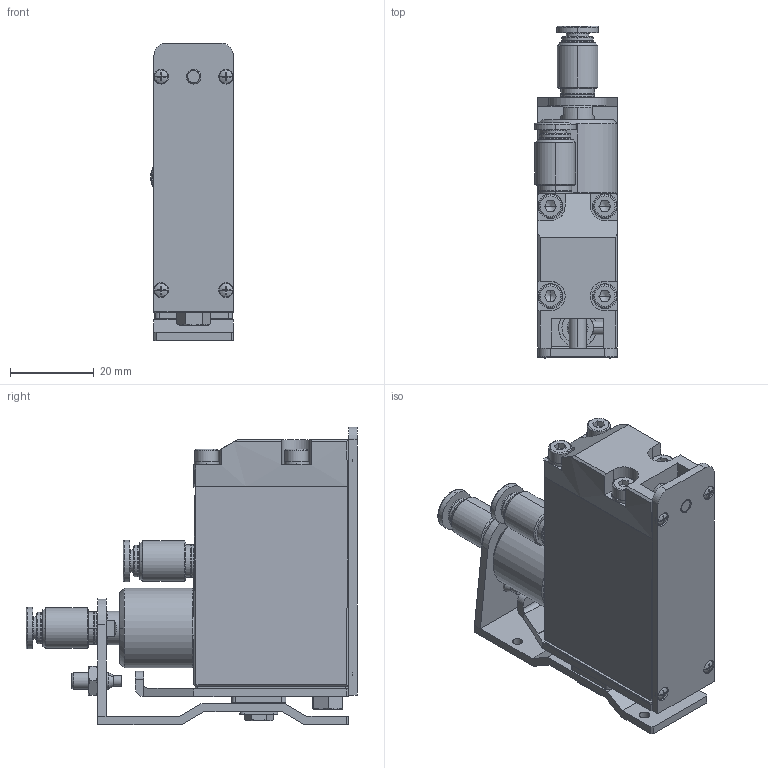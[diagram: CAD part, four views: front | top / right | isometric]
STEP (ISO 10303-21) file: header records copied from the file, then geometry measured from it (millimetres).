
FILE_DESCRIPTION (( 'STEP AP214' ), '1' );
FILE_NAME ('GT-NT03-4.STEP', '2019-11-27T06:04:14', ( '微软用户' ), ( '微软中国' ), 'SwSTEP 2.0', 'SolidWorks 2016', '' );
FILE_SCHEMA (( 'AUTOMOTIVE_DESIGN' ));
Length unit declared in the file: millimetre
Products named in the file (1): GT-NT03-4
Bounding box: 19.8 x 79.29 x 71.1 mm (x, y, z)
Surface area: 24390.7 mm2 (no closed solid volume)
Topology: 0 solids, 39 shells, 991 faces, 2476 edges, 1573 vertices
Faces by surface type: plane 426, cylinder 288, bspline 171, cone 66, torus 32, sphere 8
Entity records: 43693 total; most frequent: CARTESIAN_POINT 14248, ORIENTED_EDGE 4814, DIRECTION 4289, EDGE_CURVE 2436, AXIS2_PLACEMENT_3D 1629, VERTEX_POINT 1573, EDGE_LOOP 1120, LINE 1031
